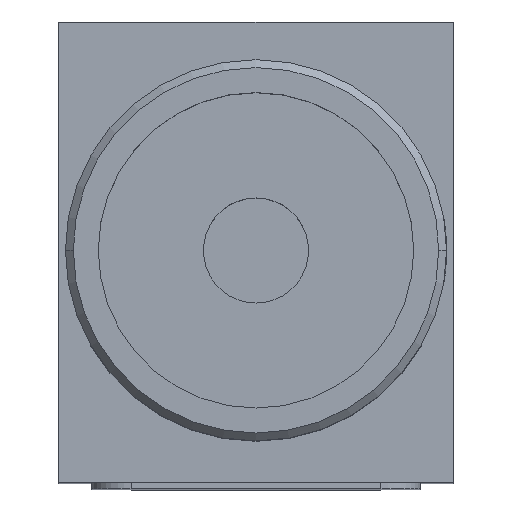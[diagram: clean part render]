
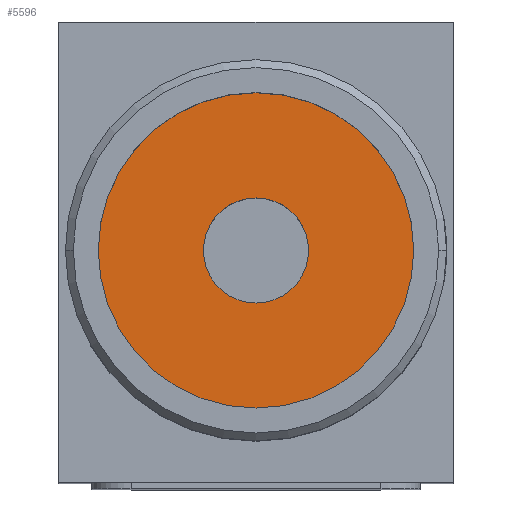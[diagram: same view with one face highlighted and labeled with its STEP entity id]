
A CAD part, top view. The second image highlights one B-rep face of the part: STEP entity #5596.
In plain terms, the highlighted planar face has unit normal (0, 0, 1).
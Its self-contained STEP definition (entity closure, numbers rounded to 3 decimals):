
#4983=CARTESIAN_POINT('',(0.,0.,100.5));
#4984=DIRECTION('',(0.,0.,1.));
#4985=DIRECTION('',(-1.,0.,0.));
#4986=AXIS2_PLACEMENT_3D('',#4983,#4984,#4985);
#5054=CARTESIAN_POINT('',(0.,0.,100.5));
#5055=DIRECTION('',(0.,0.,-1.));
#5056=DIRECTION('',(-1.,0.,0.));
#5057=AXIS2_PLACEMENT_3D('',#5054,#5055,#5056);
#5317=CARTESIAN_POINT('',(0.,0.,100.5));
#5318=DIRECTION('',(0.,0.,1.));
#5319=DIRECTION('',(-1.,0.,0.));
#5320=AXIS2_PLACEMENT_3D('',#5317,#5318,#5319);
#5325=CARTESIAN_POINT('',(0.,0.,100.5));
#5326=DIRECTION('',(0.,0.,-1.));
#5327=DIRECTION('',(-1.,0.,0.));
#5328=AXIS2_PLACEMENT_3D('',#5325,#5326,#5327);
#5333=CARTESIAN_POINT('',(-4.,0.,100.5));
#5335=VERTEX_POINT('',#5333);
#5354=CARTESIAN_POINT('',(-12.,0.,100.5));
#5356=VERTEX_POINT('',#5354);
#5358=CARTESIAN_POINT('',(12.,0.,100.5));
#5360=VERTEX_POINT('',#5358);
#5361=CARTESIAN_POINT('',(4.,0.,100.5));
#5362=VERTEX_POINT('',#5361);
#5583=CARTESIAN_POINT('',(0.,0.,100.5));
#5584=DIRECTION('',(0.,0.,-1.));
#5585=DIRECTION('',(1.,0.,0.));
#5586=AXIS2_PLACEMENT_3D('',#5583,#5584,#5585);
#5587=PLANE('',#5586);
#5588=ORIENTED_EDGE('',*,*,#5576,.F.);
#5589=ORIENTED_EDGE('',*,*,#5565,.T.);
#5590=EDGE_LOOP('',(#5588,#5589));
#5591=FACE_OUTER_BOUND('',#5590,.F.);
#5592=ORIENTED_EDGE('',*,*,#5415,.F.);
#5593=ORIENTED_EDGE('',*,*,#5393,.T.);
#5594=EDGE_LOOP('',(#5592,#5593));
#5595=FACE_BOUND('',#5594,.F.);
#4987=CIRCLE('',#4986,4.);
#5058=CIRCLE('',#5057,4.);
#5321=CIRCLE('',#5320,12.);
#5329=CIRCLE('',#5328,12.);
#5393=EDGE_CURVE('',#5335,#5362,#4987,.T.);
#5415=EDGE_CURVE('',#5335,#5362,#5058,.T.);
#5565=EDGE_CURVE('',#5356,#5360,#5329,.T.);
#5576=EDGE_CURVE('',#5356,#5360,#5321,.T.);
#5596=ADVANCED_FACE('',(#5591,#5595),#5587,.F.);
